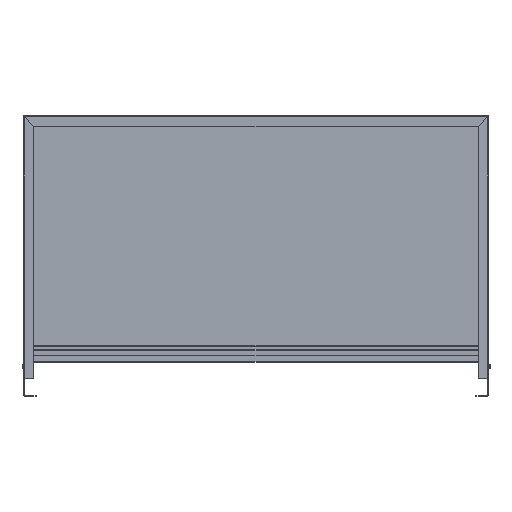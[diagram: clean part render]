
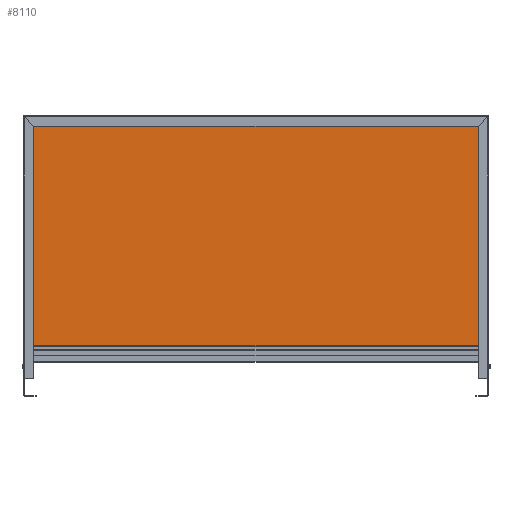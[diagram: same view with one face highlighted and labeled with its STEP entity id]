
A CAD part, front view. The second image highlights one B-rep face of the part: STEP entity #8110.
In plain terms, the highlighted planar face has unit normal (0, -1, 0).
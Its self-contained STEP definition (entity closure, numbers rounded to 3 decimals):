
#3022=CARTESIAN_POINT('',(-550.5,0.8,81.8));
#3023=VERTEX_POINT('',#3022);
#3056=CARTESIAN_POINT('',(-572.771,0.8,647.2));
#3057=VERTEX_POINT('',#3056);
#3087=CARTESIAN_POINT('',(-550.5,0.8,624.929));
#3088=VERTEX_POINT('',#3087);
#3095=CARTESIAN_POINT('',(-550.5,0.8,624.929));
#3096=DIRECTION('',(-0.707,-0.,0.707));
#3097=VECTOR('',#3096,31.496);
#3098=LINE('',#3095,#3097);
#3099=EDGE_CURVE('',#3088,#3057,#3098,.T.);
#3124=CARTESIAN_POINT('',(-550.5,0.8,624.929));
#3125=DIRECTION('',(0.,-0.,-1.));
#3126=VECTOR('',#3125,543.129);
#3127=LINE('',#3124,#3126);
#3128=EDGE_CURVE('',#3088,#3023,#3127,.T.);
#3280=CARTESIAN_POINT('',(550.5,0.8,81.8));
#3281=VERTEX_POINT('',#3280);
#3296=CARTESIAN_POINT('',(572.771,0.8,647.2));
#3297=VERTEX_POINT('',#3296);
#3350=CARTESIAN_POINT('',(550.5,0.8,624.929));
#3351=VERTEX_POINT('',#3350);
#3352=CARTESIAN_POINT('',(572.771,0.8,647.2));
#3353=DIRECTION('',(-0.707,0.,-0.707));
#3354=VECTOR('',#3353,31.496);
#3355=LINE('',#3352,#3354);
#3356=EDGE_CURVE('',#3297,#3351,#3355,.T.);
#3374=CARTESIAN_POINT('',(550.5,0.8,81.8));
#3375=DIRECTION('',(-0.,-0.,1.));
#3376=VECTOR('',#3375,543.129);
#3377=LINE('',#3374,#3376);
#3378=EDGE_CURVE('',#3281,#3351,#3377,.T.);
#3536=CARTESIAN_POINT('',(-572.629,0.8,647.2));
#3537=VERTEX_POINT('',#3536);
#3544=CARTESIAN_POINT('',(-550.429,0.8,625.));
#3545=VERTEX_POINT('',#3544);
#3546=CARTESIAN_POINT('',(-572.629,0.8,647.2));
#3547=DIRECTION('',(0.707,0.,-0.707));
#3548=VECTOR('',#3547,31.396);
#3549=LINE('',#3546,#3548);
#3550=EDGE_CURVE('',#3537,#3545,#3549,.T.);
#3597=CARTESIAN_POINT('',(572.629,0.8,647.2));
#3598=VERTEX_POINT('',#3597);
#3629=CARTESIAN_POINT('',(550.429,0.8,625.));
#3630=VERTEX_POINT('',#3629);
#3637=CARTESIAN_POINT('',(550.429,0.8,625.));
#3638=DIRECTION('',(0.707,-0.,0.707));
#3639=VECTOR('',#3638,31.396);
#3640=LINE('',#3637,#3639);
#3641=EDGE_CURVE('',#3630,#3598,#3640,.T.);
#3660=CARTESIAN_POINT('',(550.429,0.8,625.));
#3661=DIRECTION('',(-1.,0.,0.));
#3662=VECTOR('',#3661,1100.859);
#3663=LINE('',#3660,#3662);
#3664=EDGE_CURVE('',#3630,#3545,#3663,.T.);
#8078=CARTESIAN_POINT('',(0.,0.8,0.));
#8079=DIRECTION('',(0.,1.,0.));
#8080=DIRECTION('',(-1.,0.,0.));
#8081=AXIS2_PLACEMENT_3D('',#8078,#8079,#8080);
#8082=PLANE('',#8081);
#8083=ORIENTED_EDGE('',*,*,#3099,.F.);
#8084=ORIENTED_EDGE('',*,*,#3128,.T.);
#8085=CARTESIAN_POINT('',(550.5,0.8,81.8));
#8086=DIRECTION('',(-1.,0.,0.));
#8087=VECTOR('',#8086,1101.);
#8088=LINE('',#8085,#8087);
#8089=EDGE_CURVE('',#3281,#3023,#8088,.T.);
#8090=ORIENTED_EDGE('',*,*,#8089,.F.);
#8091=ORIENTED_EDGE('',*,*,#3378,.T.);
#8092=ORIENTED_EDGE('',*,*,#3356,.F.);
#8093=CARTESIAN_POINT('',(572.629,0.8,647.2));
#8094=DIRECTION('',(1.,0.,-0.));
#8095=VECTOR('',#8094,0.141);
#8096=LINE('',#8093,#8095);
#8097=EDGE_CURVE('',#3598,#3297,#8096,.T.);
#8098=ORIENTED_EDGE('',*,*,#8097,.F.);
#8099=ORIENTED_EDGE('',*,*,#3641,.F.);
#8100=ORIENTED_EDGE('',*,*,#3664,.T.);
#8101=ORIENTED_EDGE('',*,*,#3550,.F.);
#8102=CARTESIAN_POINT('',(-572.771,0.8,647.2));
#8103=DIRECTION('',(1.,0.,-0.));
#8104=VECTOR('',#8103,0.141);
#8105=LINE('',#8102,#8104);
#8106=EDGE_CURVE('',#3057,#3537,#8105,.T.);
#8107=ORIENTED_EDGE('',*,*,#8106,.F.);
#8108=EDGE_LOOP('',(#8083,#8084,#8090,#8091,#8092,#8098,#8099,#8100,#8101,#8107));
#8109=FACE_BOUND('',#8108,.T.);
#8110=ADVANCED_FACE('',(#8109),#8082,.F.);
